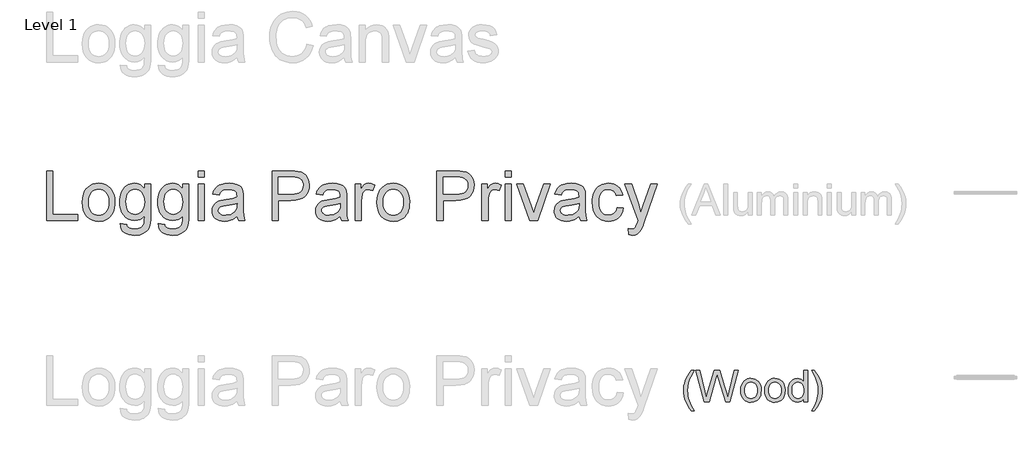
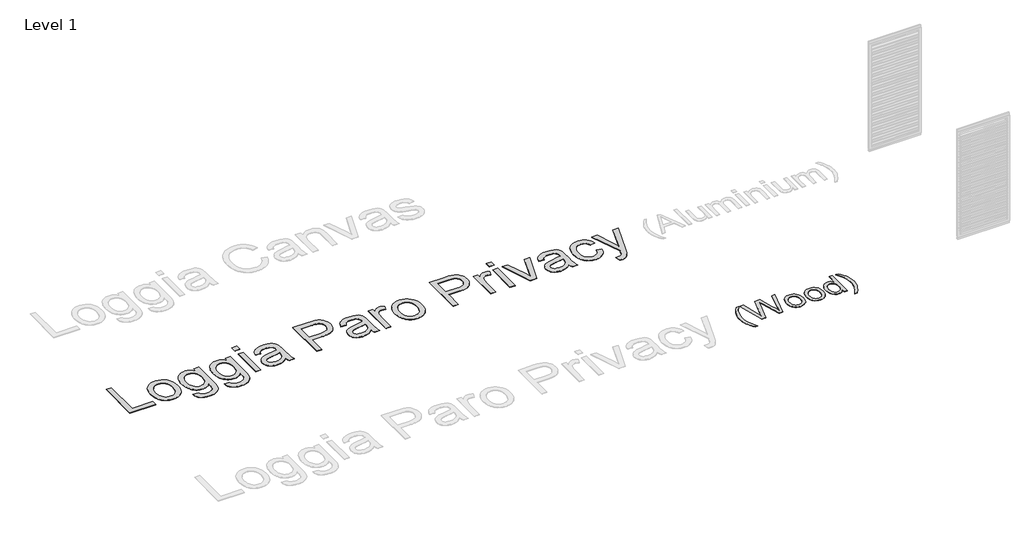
# One storey, part 29 of 69: 2 proxies.
"""IFC4 building model written with IfcOpenShell, lengths in millimetres."""

from ifc_helpers import new_model, si_unit, origin, origin_with_axes, place, context, project, spatial, polyline, outline, extrude, element, save

model = new_model("IFC4")

# Units and contexts
model_context = context("Model", 3, world=origin())
ifc_project = project(units=[si_unit("LENGTHUNIT", "METRE", prefix="MILLI")], contexts=[model_context])

# Site, building, storey
site = spatial("IfcSite", under=ifc_project)
building = spatial("IfcBuilding", under=site)
storey = spatial("IfcBuildingStorey", under=building, Name="Level 1", Elevation=0.0)

# Proxies
placement = place(None, origin())
element("IfcBuildingElementProxy", 1, Name="500mm Arial", ObjectType="500mm Arial", at=placement, inside=storey, context=model_context, shape_type="SweptSolid", body=[
    extrude(outline(polyline([(204325.7477169, -27411.3143919), (204300.4021803, -27378.5192449), (204277.0953231, -27343.041625), (204236.5976468, -27264.0389665), (204220.6637579, -27221.471954), (204209.2824086, -27178.1385206), (204202.4535991, -27134.0386664), (204200.1773292, -27089.1723915), (204201.8787835, -27049.7400401), (204206.9831462, -27011.1507516), (204215.4904173, -26973.4045261), (204227.4005969, -26936.5013635), (204245.5034567, -26894.1796056), (204267.92893, -26851.9498182), (204294.6770168, -26809.8120014), (204325.7477169, -26767.766155), (204372.8366123, -26767.766155), (204314.0981204, -26867.216921), (204294.0485517, -26914.4284437), (204278.7814489, -26963.6020038), (204266.9172545, -27026.4178544), (204262.9625231, -27089.5402734), (204264.6793057, -27129.788863), (204269.8296537, -27170.0297883), (204278.4135669, -27210.2630494), (204290.4310454, -27250.4886463), (204324.7666983, -27330.9168475), (204372.8366123, -27411.3143919), (204325.7477169, -27411.3143919)])), origin_with_axes(), (0.0, 0.0, 1.0), 5.0),
    extrude(outline(polyline([(204533.3557895, -27270.0477057), (204396.38106, -26767.766155), (204461.1282912, -26767.766155), (204540.5908021, -27097.878932), (204565.1162685, -27199.7822447), (204591.3585175, -27109.6511559), (204690.9319108, -26767.766155), (204784.2513103, -26767.766155), (204856.601436, -27015.5959924), (204887.5954941, -27107.5664912), (204910.4348346, -27199.7822447), (204934.224537, -27100.821988), (205014.4228119, -26767.766155), (205079.1700431, -26767.766155), (204942.0726862, -27270.0477057), (204874.9955357, -27270.0477057), (204754.575496, -26882.5453375), (204737.7755515, -26828.4666842), (204718.8909424, -26893.5817974), (204609.1394806, -27270.0477057), (204533.3557895, -27270.0477057)])), origin_with_axes(), (0.0, 0.0, 1.0), 5.0),
    extrude(outline(polyline([(205118.4107892, -27085.6161988), (205121.8060335, -27037.8451889), (205131.9917662, -26996.6807265), (205148.9679874, -26962.1228116), (205172.7346972, -26934.1714442), (205196.6623553, -26916.3061748), (205223.0732168, -26903.5452681), (205251.9672819, -26895.888724), (205283.3445504, -26893.3365427), (205317.9829395, -26896.4443791), (205349.3027264, -26905.7678884), (205377.3039112, -26921.3070706), (205401.9864938, -26943.0619257), (205422.1318652, -26970.2966897), (205436.5214161, -27002.2755985), (205445.1551467, -27038.9986523), (205448.0330569, -27080.4658509), (205442.9440226, -27143.8948382), (205436.5827298, -27169.9301536), (205427.6769198, -27192.1793501), (205416.3377237, -27211.3973522), (205402.6762726, -27228.3390845), (205386.6925663, -27243.004547), (205368.3866049, -27255.3937396), (205327.6590024, -27272.2703261), (205283.3445504, -27277.895855), (205248.2003235, -27274.7995149), (205216.5892967, -27265.5104945), (205188.5114698, -27250.0287938), (205163.9668429, -27228.354413), (205144.0360694, -27200.8552338), (205129.7998026, -27167.8991384), (205121.2580426, -27129.4861268), (205118.4107892, -27085.6161988)]), holes=[polyline([(205181.1959831, -27085.4935715), (205183.0124004, -27115.9473029), (205188.4616525, -27142.3160113), (205197.5437392, -27164.5996968), (205210.2586607, -27182.7983592), (205225.7250329, -27196.9349913), (205243.0614719, -27207.0325857), (205262.2679777, -27213.0911423), (205283.3445504, -27215.1106611), (205304.3138241, -27213.079646), (205323.4436879, -27206.9866004), (205340.7341416, -27196.8315245), (205356.1851854, -27182.6144182), (205368.9001069, -27164.2356469), (205377.9821936, -27141.5955758), (205383.4314457, -27114.6942049), (205385.247863, -27083.5315342), (205383.4199494, -27054.043493), (205377.9362084, -27028.3645633), (205368.7966401, -27006.4947451), (205356.0012444, -26988.4340384), (205340.4927191, -26974.2974064), (205323.2137616, -26964.199812), (205304.164372, -26958.1412554), (205283.3445504, -26956.1217365), (205262.2679777, -26958.1335912), (205243.0614719, -26964.1691552), (205225.7250329, -26974.2284285), (205210.2586607, -26988.3114111), (205197.5437392, -27006.4564241), (205188.4616525, -27028.7017885), (205183.0124004, -27055.0475043), (205181.1959831, -27085.4935715)])]), origin_with_axes(), (0.0, 0.0, 1.0), 5.0),
    extrude(outline(polyline([(205502.9701015, -27085.6161988), (205506.3653457, -27037.8451889), (205516.5510785, -26996.6807265), (205533.5272997, -26962.1228116), (205557.2940095, -26934.1714442), (205581.2216676, -26916.3061748), (205607.6325291, -26903.5452681), (205636.5265942, -26895.888724), (205667.9038627, -26893.3365427), (205702.5422518, -26896.4443791), (205733.8620387, -26905.7678884), (205761.8632235, -26921.3070706), (205786.5458061, -26943.0619257), (205806.6911775, -26970.2966897), (205821.0807284, -27002.2755985), (205829.714459, -27038.9986523), (205832.5923692, -27080.4658509), (205827.5033349, -27143.8948382), (205821.1420421, -27169.9301536), (205812.2362321, -27192.1793501), (205800.897036, -27211.3973522), (205787.2355849, -27228.3390845), (205771.2518786, -27243.004547), (205752.9459172, -27255.3937396), (205712.2183147, -27272.2703261), (205667.9038627, -27277.895855), (205632.7596358, -27274.7995149), (205601.148609, -27265.5104945), (205573.0707821, -27250.0287938), (205548.5261552, -27228.354413), (205528.5953817, -27200.8552338), (205514.3591149, -27167.8991384), (205505.8173549, -27129.4861268), (205502.9701015, -27085.6161988)]), holes=[polyline([(205565.7552953, -27085.4935715), (205567.5717127, -27115.9473029), (205573.0209647, -27142.3160113), (205582.1030515, -27164.5996968), (205594.817973, -27182.7983592), (205610.2843452, -27196.9349913), (205627.6207842, -27207.0325857), (205646.82729, -27213.0911423), (205667.9038627, -27215.1106611), (205688.8731364, -27213.079646), (205708.0030001, -27206.9866004), (205725.2934539, -27196.8315245), (205740.7444977, -27182.6144182), (205753.4594192, -27164.2356469), (205762.5415059, -27141.5955758), (205767.990758, -27114.6942049), (205769.8071753, -27083.5315342), (205767.9792617, -27054.043493), (205762.4955207, -27028.3645633), (205753.3559524, -27006.4947451), (205740.5605567, -26988.4340384), (205725.0520314, -26974.2974064), (205707.7730739, -26964.199812), (205688.7236843, -26958.1412554), (205667.9038627, -26956.1217365), (205646.82729, -26958.1335912), (205627.6207842, -26964.1691552), (205610.2843452, -26974.2284285), (205594.817973, -26988.3114111), (205582.1030515, -27006.4564241), (205573.0209647, -27028.7017885), (205567.5717127, -27055.0475043), (205565.7552953, -27085.4935715)])]), origin_with_axes(), (0.0, 0.0, 1.0), 5.0),
    extrude(outline(polyline([(206130.8220399, -27270.0477057), (206130.8220399, -27210.8187045), (206112.0370656, -27240.1649578), (206089.2820313, -27261.1265674), (206062.5569372, -27273.7035331), (206031.8617832, -27277.895855), (205991.2721364, -27271.8258021), (205954.1160549, -27253.6156433), (205922.6621443, -27224.5376373), (205899.1790103, -27185.8640425), (205884.555701, -27139.1583575), (205879.6812646, -27085.9840808), (205884.1724906, -27033.468926), (205897.6461687, -26986.0428055), (205907.7475951, -26964.9125834), (205920.0869704, -26946.4035205), (205934.6642944, -26930.5156168), (205951.4795673, -26917.2488724), (205989.4480549, -26899.3146251), (206031.6165286, -26893.3365427), (206062.3346752, -26897.6131709), (206089.4966291, -26910.4430555), (206112.5199107, -26930.1094138), (206130.8220399, -26954.8954632), (206130.8220399, -26767.766155), (206193.6072338, -26767.766155), (206193.6072338, -27270.0477057), (206130.8220399, -27270.0477057)]), holes=[polyline([(205942.4664584, -27085.7388262), (205944.2368905, -27116.1848934), (205949.5481868, -27142.5306092), (205958.4003473, -27164.7759736), (205970.793372, -27182.9209866), (205985.5929581, -27197.0039692), (206001.6648028, -27207.0632425), (206019.008906, -27213.0988065), (206037.6252678, -27215.1106611), (206056.329768, -27213.190777), (206073.5704044, -27207.4311245), (206089.3471771, -27197.8317037), (206103.660086, -27184.3925145), (206115.5434408, -27167.0062582), (206124.0315514, -27145.5656356), (206129.1244178, -27120.0706469), (206130.8220399, -27090.5212921), (206129.093761, -27058.1246839), (206123.9089241, -27030.3419291), (206115.2675293, -27007.1730276), (206103.1695766, -26988.6179794), (206088.5424352, -26974.4008732), (206072.3134743, -26964.2457973), (206054.4826938, -26958.1527517), (206035.0500939, -26956.1217365), (206016.0658501, -26958.0722775), (205998.7217468, -26963.9239005), (205983.0177842, -26973.6766055), (205968.9539621, -26987.3303925), (205957.3656792, -27005.1841655), (205949.0883343, -27027.5368288), (205944.1219274, -27054.3883824), (205942.4664584, -27085.7388262)])]), origin_with_axes(), (0.0, 0.0, 1.0), 5.0),
    extrude(outline(polyline([(206303.481323, -27411.3143919), (206256.3924276, -27411.3143919), (206304.4623417, -27330.9168475), (206338.7979945, -27250.4886463), (206350.815473, -27210.2630494), (206359.3993863, -27170.0297883), (206364.5497342, -27129.788863), (206366.2665168, -27089.5402734), (206362.3117854, -27026.8777069), (206350.4475911, -26964.7056498), (206335.4563998, -26915.4401192), (206315.4988015, -26868.1979397), (206256.3924276, -26767.766155), (206303.481323, -26767.766155), (206334.5520232, -26809.8120014), (206361.3001099, -26851.9498182), (206383.7255832, -26894.1796056), (206401.828443, -26936.5013635), (206413.7386226, -26973.4045261), (206422.2458938, -27011.1507516), (206427.3502565, -27049.7400401), (206429.0517107, -27089.1723915), (206426.7639445, -27134.0386664), (206419.9006461, -27178.1385206), (206408.4618153, -27221.471954), (206392.4474522, -27264.0389665), (206351.9037906, -27343.041625), (206303.481323, -27411.3143919)])), origin_with_axes(), (0.0, 0.0, 1.0), 5.0),
])
element("IfcBuildingElementProxy", 2, Name="800mm Arial", ObjectType="800mm Arial", at=placement, inside=storey, context=model_context, shape_type="SweptSolid", body=[
    extrude(outline(polyline([(193965.6331768, -24354.4867288), (193965.6331768, -23555.0980305), (194065.556764, -23555.0980305), (194065.556764, -24254.5631415), (194465.2511132, -24254.5631415), (194465.2511132, -24354.4867288), (193965.6331768, -24354.4867288)])), origin_with_axes(), (0.0, 0.0, 1.0), 5.0),
    extrude(outline(polyline([(194540.1938037, -24060.9611911), (194545.5973864, -23984.932905), (194552.3518647, -23950.8616697), (194561.8081343, -23919.4190394), (194573.9661953, -23890.6050142), (194588.8260477, -23864.4195942), (194606.3876913, -23840.8627793), (194626.6511263, -23819.9345694), (194664.7323567, -23791.5017225), (194706.7656431, -23771.1925461), (194752.7509853, -23759.0070403), (194802.6883836, -23754.945205), (194857.8159047, -23759.8913738), (194907.6618201, -23774.7298802), (194952.22613, -23799.4607241), (194991.5088342, -23834.0839055), (195023.5704979, -23877.428445), (195046.4716863, -23928.323363), (195060.2123993, -23986.7686594), (195064.792637, -24052.7643344), (195062.7678182, -24106.2512643), (195056.6933618, -24153.7125288), (195046.5692679, -24195.1481276), (195032.3955364, -24230.558061), (195014.349034, -24261.1438026), (194992.6066275, -24288.1068262), (194967.1683168, -24311.4471319), (194938.0341019, -24331.1647197), (194906.3383693, -24346.8326698), (194873.2155054, -24358.0240628), (194838.6655101, -24364.7388986), (194802.6883836, -24366.9771772), (194746.7558141, -24362.049305), (194696.4463859, -24347.2656883), (194651.760099, -24322.6263272), (194612.6969535, -24288.1312216), (194580.9768254, -24244.3658614), (194558.3195911, -24191.9157362), (194544.7252505, -24130.7808461), (194540.1938037, -24060.9611911)]), holes=[polyline([(194640.117391, -24060.7660279), (194643.0082467, -24109.2336028), (194651.6808139, -24151.1998018), (194666.1350926, -24186.6646248), (194686.3710828, -24215.6280719), (194710.9860485, -24238.126736), (194738.5772539, -24254.1972104), (194769.1446989, -24263.839495), (194802.6883836, -24267.0535899), (194836.0613004, -24263.8211985), (194866.5067684, -24254.1240242), (194894.0247876, -24237.962067), (194918.6153579, -24215.335327), (194938.8513481, -24186.0852339), (194953.3056267, -24150.0532177), (194961.9781939, -24107.2392783), (194964.8690497, -24057.6434158), (194961.9598974, -24010.7127515), (194953.2324405, -23969.8443458), (194938.6866791, -23935.0381988), (194918.322613, -23906.2943104), (194893.6405599, -23883.7956463), (194866.1408373, -23867.7251719), (194835.8234452, -23858.0828872), (194802.6883836, -23854.8687923), (194769.1446989, -23858.0706895), (194738.5772539, -23867.676381), (194710.9860485, -23883.6858669), (194686.3710828, -23906.0991472), (194666.1350926, -23934.9772103), (194651.6808139, -23970.3810447), (194643.0082467, -24012.3106506), (194640.117391, -24060.7660279)])]), origin_with_axes(), (0.0, 0.0, 1.0), 5.0),
    extrude(outline(polyline([(195152.2257759, -24404.4485225), (195252.1493631, -24416.9389709), (195256.3697686, -24433.7718017), (195263.1760871, -24448.1650919), (195272.5683189, -24460.1188413), (195284.5464637, -24469.6330501), (195303.9286146, -24479.3668175), (195326.5553547, -24486.3195085), (195381.5426022, -24491.8816613), (195412.7443278, -24490.3081576), (195440.1891607, -24485.5876463), (195463.877101, -24477.7201275), (195483.8081485, -24466.7056013), (195500.3970253, -24452.84901), (195514.0584533, -24436.4552965), (195524.7924324, -24417.5244606), (195532.5989626, -24396.0565024), (195538.014743, -24353.0717952), (195539.4296766, -24279.5440383), (195506.1787368, -24312.3314654), (195469.0733227, -24335.7510562), (195428.1134342, -24349.8028107), (195383.2990715, -24354.4867288), (195328.5130861, -24349.0343553), (195280.2772675, -24332.6772349), (195258.6156707, -24320.4093946), (195238.5916157, -24305.4153675), (195203.4561307, -24267.2487532), (195175.5782793, -24221.4585741), (195155.6655283, -24171.3260126), (195143.7178776, -24116.8510687), (195139.7353274, -24058.0337423), (195141.522291, -24016.8847894), (195146.8831817, -23977.3581312), (195155.8179995, -23939.4537674), (195168.3267445, -23903.1716983), (195184.2203522, -23869.7194964), (195203.3097582, -23840.3047343), (195225.5949626, -23814.9274121), (195251.0759652, -23793.5875298), (195279.3441432, -23776.6815127), (195309.9908733, -23764.6057862), (195343.0161556, -23757.3603503), (195378.4199901, -23754.945205), (195425.1493923, -23760.4097762), (195467.5608074, -23776.8034898), (195505.6542356, -23804.1263457), (195539.4296766, -23842.3783439), (195539.4296766, -23767.4356535), (195639.3532639, -23767.4356535), (195639.3532639, -24274.2746304), (195637.6455854, -24337.7819738), (195632.5225499, -24391.299398), (195623.9841575, -24434.8269031), (195612.030408, -24468.3644889), (195596.3746555, -24495.4128965), (195576.730254, -24519.4728667), (195553.0972034, -24540.5443996), (195525.4755038, -24558.627495), (195494.1457023, -24573.1427622), (195459.3883461, -24583.5108102), (195421.2034352, -24589.731639), (195379.5909696, -24591.8052486), (195330.6354865, -24588.8838986), (195286.6200733, -24580.1198486), (195247.5447301, -24565.5130987), (195213.4094567, -24545.0636487), (195185.8365479, -24518.7471034), (195166.4482982, -24486.5390672), (195155.2447075, -24448.4395402), (195152.2257759, -24404.4485225)]), holes=[polyline([(195239.6589147, -24051.2030283), (195242.324113, -24100.6098264), (195250.3197076, -24142.8565726), (195263.6456987, -24177.9432668), (195282.3020863, -24205.869909), (195304.983716, -24227.1731982), (195330.3854336, -24242.3898334), (195358.5072391, -24251.5198145), (195389.3491324, -24254.5631415), (195419.8860832, -24251.538111), (195447.8737139, -24242.4630196), (195473.3120246, -24227.3378672), (195496.2010153, -24206.1626539), (195515.1135546, -24178.51046), (195528.6225113, -24143.9543659), (195536.7278853, -24102.4943716), (195539.4296766, -24054.1304772), (195536.6486002, -24007.7853026), (195528.305371, -23967.5023867), (195514.399989, -23933.2817295), (195494.9324541, -23905.1233309), (195471.5494565, -23883.1369703), (195445.897686, -23867.432427), (195417.9771426, -23858.009701), (195387.7878264, -23854.8687923), (195358.1047148, -23857.9609102), (195330.7269693, -23867.2372637), (195305.6545897, -23882.6978529), (195282.887576, -23904.3426778), (195263.9750367, -23932.0741568), (195250.4660801, -23965.7947082), (195242.3607061, -24005.504332), (195239.6589147, -24051.2030283)])]), origin_with_axes(), (0.0, 0.0, 1.0), 5.0),
    extrude(outline(polyline([(195764.257748, -24404.4485225), (195864.1813353, -24416.9389709), (195868.4017407, -24433.7718017), (195875.2080593, -24448.1650919), (195884.600291, -24460.1188413), (195896.5784359, -24469.6330501), (195915.9605868, -24479.3668175), (195938.5873268, -24486.3195085), (195993.5745743, -24491.8816613), (196024.7763, -24490.3081576), (196052.2211329, -24485.5876463), (196075.9090731, -24477.7201275), (196095.8401207, -24466.7056013), (196112.4289975, -24452.84901), (196126.0904254, -24436.4552965), (196136.8244046, -24417.5244606), (196144.6309348, -24396.0565024), (196150.0467152, -24353.0717952), (196151.4616488, -24279.5440383), (196118.210709, -24312.3314654), (196081.1052948, -24335.7510562), (196040.1454064, -24349.8028107), (195995.3310436, -24354.4867288), (195940.5450582, -24349.0343553), (195892.3092397, -24332.6772349), (195870.6476429, -24320.4093946), (195850.6235878, -24305.4153675), (195815.4881028, -24267.2487532), (195787.6102514, -24221.4585741), (195767.6975004, -24171.3260126), (195755.7498498, -24116.8510687), (195751.7672996, -24058.0337423), (195753.5542632, -24016.8847894), (195758.9151539, -23977.3581312), (195767.8499717, -23939.4537674), (195780.3587167, -23903.1716983), (195796.2523244, -23869.7194964), (195815.3417304, -23840.3047343), (195837.6269347, -23814.9274121), (195863.1079374, -23793.5875298), (195891.3761153, -23776.6815127), (195922.0228454, -23764.6057862), (195955.0481277, -23757.3603503), (195990.4519622, -23754.945205), (196037.1813644, -23760.4097762), (196079.5927796, -23776.8034898), (196117.6862077, -23804.1263457), (196151.4616488, -23842.3783439), (196151.4616488, -23767.4356535), (196251.3852361, -23767.4356535), (196251.3852361, -24274.2746304), (196249.6775576, -24337.7819738), (196244.5545221, -24391.299398), (196236.0161296, -24434.8269031), (196224.0623802, -24468.3644889), (196208.4066277, -24495.4128965), (196188.7622262, -24519.4728667), (196165.1291756, -24540.5443996), (196137.5074759, -24558.627495), (196106.1776744, -24573.1427622), (196071.4203182, -24583.5108102), (196033.2354073, -24589.731639), (195991.6229418, -24591.8052486), (195942.6674587, -24588.8838986), (195898.6520455, -24580.1198486), (195859.5767022, -24565.5130987), (195825.4414289, -24545.0636487), (195797.8685201, -24518.7471034), (195778.4802703, -24486.5390672), (195767.2766796, -24448.4395402), (195764.257748, -24404.4485225)]), holes=[polyline([(195851.6908869, -24051.2030283), (195854.3560851, -24100.6098264), (195862.3516798, -24142.8565726), (195875.6776709, -24177.9432668), (195894.3340584, -24205.869909), (195917.0156881, -24227.1731982), (195942.4174057, -24242.3898334), (195970.5392112, -24251.5198145), (196001.3811046, -24254.5631415), (196031.9180554, -24251.538111), (196059.9056861, -24242.4630196), (196085.3439968, -24227.3378672), (196108.2329875, -24206.1626539), (196127.1455268, -24178.51046), (196140.6544835, -24143.9543659), (196148.7598575, -24102.4943716), (196151.4616488, -24054.1304772), (196148.6805724, -24007.7853026), (196140.3373432, -23967.5023867), (196126.4319611, -23933.2817295), (196106.9644263, -23905.1233309), (196083.5814287, -23883.1369703), (196057.9296581, -23867.432427), (196030.0091148, -23858.009701), (195999.8197985, -23854.8687923), (195970.136687, -23857.9609102), (195942.7589414, -23867.2372637), (195917.6865618, -23882.6978529), (195894.9195482, -23904.3426778), (195876.0070089, -23932.0741568), (195862.4980522, -23965.7947082), (195854.3926782, -24005.504332), (195851.6908869, -24051.2030283)])]), origin_with_axes(), (0.0, 0.0, 1.0), 5.0),
    extrude(outline(polyline([(196401.270617, -23655.0216178), (196401.270617, -23555.0980305), (196501.1942043, -23555.0980305), (196501.1942043, -23655.0216178), (196401.270617, -23655.0216178)])), origin_with_axes(), (0.0, 0.0, 1.0), 5.0),
    extrude(outline(polyline([(196401.270617, -24354.4867288), (196401.270617, -23767.4356535), (196501.1942043, -23767.4356535), (196501.1942043, -24354.4867288), (196401.270617, -24354.4867288)])), origin_with_axes(), (0.0, 0.0, 1.0), 5.0),
    extrude(outline(polyline([(197025.7930376, -24279.5440383), (196978.051226, -24320.4795314), (196953.6497201, -24335.6412769), (196928.8944808, -24347.2656883), (196877.2006132, -24362.049305), (196821.8474346, -24366.9771772), (196777.356311, -24364.0131353), (196738.3419563, -24355.1210094), (196704.8043704, -24340.3007996), (196676.7435535, -24319.5525059), (196654.586425, -24294.1934803), (196638.7599047, -24265.5410747), (196629.2639925, -24233.5952891), (196626.0986884, -24198.3561237), (196630.8801882, -24156.9327225), (196645.2246876, -24119.3150048), (196667.3513218, -24087.1130675), (196695.4792261, -24061.9370074), (196728.5350026, -24042.9085899), (196765.4452535, -24029.1495803), (196851.9025761, -24014.1220096), (196954.0705409, -23998.3137858), (197025.2075478, -23979.7732765), (197025.7930376, -23957.5246652), (197024.0731614, -23933.300026), (197018.9135328, -23912.9298611), (197010.3141518, -23896.4141706), (196998.2750184, -23883.7529543), (196977.4657362, -23871.1161334), (196952.1189083, -23862.0898328), (196922.2345347, -23856.6740525), (196887.8126153, -23854.8687923), (196828.2878221, -23859.6746875), (196805.2585578, -23865.6820565), (196786.7180485, -23874.0923731), (196771.4831168, -23885.5643133), (196758.3705855, -23900.756553), (196747.3804546, -23919.6690923), (196738.5127241, -23942.3019312), (196638.5891368, -23929.8114828), (196655.9342713, -23875.165771), (196667.8087356, -23852.2340884), (196681.8177981, -23832.2298546), (196698.5652451, -23814.7505454), (196718.6548628, -23799.3936367), (196742.0866513, -23786.1591284), (196768.8606105, -23775.0470205), (196830.2638501, -23759.9706589), (196900.6933902, -23754.945205), (196968.2442724, -23759.3851691), (197021.7921908, -23772.7050614), (197062.1665895, -23792.7336906), (197090.1969122, -23817.2998655), (197108.7862124, -23847.6721473), (197120.8375435, -23885.1190971), (197124.4968545, -23919.6629935), (197125.7166249, -23972.552236), (197125.7166249, -24096.8712303), (197126.9851861, -24205.1624422), (197130.7908696, -24270.4689469), (197138.3046549, -24313.3804679), (197150.6975217, -24354.4867288), (197050.7739344, -24354.4867288), (197034.7705474, -24319.7476692), (197025.7930376, -24279.5440383)]), holes=[polyline([(197025.7930376, -24079.6968637), (196958.6568774, -24096.3345314), (196864.5881878, -24110.337495), (196812.7479478, -24117.9976528), (196778.6187733, -24126.5360453), (196756.2481851, -24137.6115601), (196739.6837037, -24152.8830849), (196729.4376327, -24171.1796402), (196726.0222757, -24191.3302464), (196727.8824255, -24206.857923), (196733.4628749, -24221.0438522), (196742.7636238, -24233.888034), (196755.7846723, -24245.3904685), (196772.4040434, -24254.8680841), (196792.4997599, -24261.6378096), (196843.1202296, -24267.0535899), (196896.7901251, -24261.0767152), (196921.2831138, -24253.6056218), (196944.2147964, -24243.146091), (196982.6619579, -24216.7258652), (197009.3993241, -24185.2801855), (197021.2554919, -24152.8830849), (197025.2075478, -24107.9955359), (197025.7930376, -24079.6968637)])]), origin_with_axes(), (0.0, 0.0, 1.0), 5.0),
    extrude(outline(polyline([(197587.8632161, -24354.4867288), (197587.8632161, -23555.0980305), (197884.1210394, -23555.0980305), (197953.1112505, -23557.0008722), (198003.5609523, -23562.7093975), (198056.8161259, -23576.9319198), (198100.6546724, -23600.0831611), (198119.2622691, -23615.269302), (198135.9548264, -23633.2121238), (198163.5948226, -23677.3678106), (198174.0116614, -23702.8061213), (198181.4522606, -23729.4520047), (198187.4047399, -23786.3664893), (198183.3855966, -23835.4378506), (198171.3281666, -23880.5815514), (198151.2324501, -23921.7975916), (198123.0984469, -23959.0859713), (198105.4041532, -23975.6443538), (198084.4744187, -23989.994952), (198060.3092433, -24002.1377659), (198032.908627, -24012.0727954), (197968.4010719, -24025.3195014), (197890.9517534, -24029.7350701), (197687.7868034, -24029.7350701), (197687.7868034, -24354.4867288), (197587.8632161, -24354.4867288)]), holes=[polyline([(197687.7868034, -23929.8114828), (197896.806651, -23929.8114828), (197944.8656029, -23927.5183145), (197985.4107695, -23920.6388098), (198018.4421506, -23909.1729684), (198043.9597464, -23893.1207906), (198063.0003616, -23872.9091959), (198076.600801, -23848.9651038), (198084.7610647, -23821.2885145), (198087.4811526, -23789.8794279), (198085.8771546, -23766.5574188), (198081.0651605, -23744.991879), (198073.0451705, -23725.1828084), (198061.8171844, -23707.1302072), (198047.9788897, -23691.4195651), (198032.127974, -23678.6363718), (198014.2644372, -23668.7806273), (197994.3882793, -23661.8523317), (197955.8435361, -23656.7292962), (197894.464692, -23655.0216178), (197687.7868034, -23655.0216178), (197687.7868034, -23929.8114828)])]), origin_with_axes(), (0.0, 0.0, 1.0), 5.0),
    extrude(outline(polyline([(198687.0226763, -24279.5440383), (198639.2808647, -24320.4795314), (198614.8793588, -24335.6412769), (198590.1241195, -24347.2656883), (198538.430252, -24362.049305), (198483.0770734, -24366.9771772), (198438.5859498, -24364.0131353), (198399.571595, -24355.1210094), (198366.0340092, -24340.3007996), (198337.9731922, -24319.5525059), (198315.8160638, -24294.1934803), (198299.9895434, -24265.5410747), (198290.4936312, -24233.5952891), (198287.3283272, -24198.3561237), (198292.1098269, -24156.9327225), (198306.4543263, -24119.3150048), (198328.5809605, -24087.1130675), (198356.7088648, -24061.9370074), (198389.7646414, -24042.9085899), (198426.6748923, -24029.1495803), (198513.1322149, -24014.1220096), (198615.3001796, -23998.3137858), (198686.4371866, -23979.7732765), (198687.0226763, -23957.5246652), (198685.3028001, -23933.300026), (198680.1431715, -23912.9298611), (198671.5437906, -23896.4141706), (198659.5046572, -23883.7529543), (198638.695375, -23871.1161334), (198613.348547, -23862.0898328), (198583.4641734, -23856.6740525), (198549.042254, -23854.8687923), (198489.5174608, -23859.6746875), (198466.4881966, -23865.6820565), (198447.9476872, -23874.0923731), (198432.7127555, -23885.5643133), (198419.6002242, -23900.756553), (198408.6100933, -23919.6690923), (198399.7423629, -23942.3019312), (198299.8187756, -23929.8114828), (198317.16391, -23875.165771), (198329.0383744, -23852.2340884), (198343.0474369, -23832.2298546), (198359.7948838, -23814.7505454), (198379.8845015, -23799.3936367), (198403.31629, -23786.1591284), (198430.0902492, -23775.0470205), (198491.4934888, -23759.9706589), (198561.923029, -23754.945205), (198629.4739111, -23759.3851691), (198683.0218296, -23772.7050614), (198723.3962283, -23792.7336906), (198751.426551, -23817.2998655), (198770.0158511, -23847.6721473), (198782.0671822, -23885.1190971), (198785.7264933, -23919.6629935), (198786.9462636, -23972.552236), (198786.9462636, -24096.8712303), (198788.2148248, -24205.1624422), (198792.0205083, -24270.4689469), (198799.5342937, -24313.3804679), (198811.9271605, -24354.4867288), (198712.0035732, -24354.4867288), (198696.0001861, -24319.7476692), (198687.0226763, -24279.5440383)]), holes=[polyline([(198687.0226763, -24079.6968637), (198619.8865161, -24096.3345314), (198525.8178265, -24110.337495), (198473.9775865, -24117.9976528), (198439.8484121, -24126.5360453), (198417.4778238, -24137.6115601), (198400.9133424, -24152.8830849), (198390.6672714, -24171.1796402), (198387.2519145, -24191.3302464), (198389.1120642, -24206.857923), (198394.6925136, -24221.0438522), (198403.9932626, -24233.888034), (198417.0143111, -24245.3904685), (198433.6336821, -24254.8680841), (198453.7293987, -24261.6378096), (198504.3498683, -24267.0535899), (198558.0197638, -24261.0767152), (198582.5127525, -24253.6056218), (198605.4444351, -24243.146091), (198643.8915967, -24216.7258652), (198670.6289628, -24185.2801855), (198682.4851306, -24152.8830849), (198686.4371866, -24107.9955359), (198687.0226763, -24079.6968637)])]), origin_with_axes(), (0.0, 0.0, 1.0), 5.0),
    extrude(outline(polyline([(198924.3411962, -24354.4867288), (198924.3411962, -23767.4356535), (199011.774335, -23767.4356535), (199011.774335, -23854.2833026), (199044.073854, -23803.9311824), (199059.2721926, -23786.5128618), (199073.8362506, -23774.2663674), (199103.6962288, -23759.7754956), (199136.2884926, -23754.945205), (199161.0742262, -23756.8724422), (199186.055123, -23762.6541537), (199211.2311831, -23772.2903395), (199236.6024064, -23785.7809996), (199203.2294896, -23875.3609343), (199168.1001034, -23859.9918278), (199132.9707173, -23854.8687923), (199103.1351345, -23859.7966646), (199076.4709545, -23874.5802812), (199054.9298101, -23898.0974536), (199040.4633337, -23929.225993), (199028.314421, -23985.0426844), (199024.2647835, -24045.9336204), (199024.2647835, -24354.4867288), (198924.3411962, -24354.4867288)])), origin_with_axes(), (0.0, 0.0, 1.0), 5.0),
    extrude(outline(polyline([(199274.0737517, -24060.9611911), (199279.4773343, -23984.932905), (199286.2318127, -23950.8616697), (199295.6880823, -23919.4190394), (199307.8461433, -23890.6050142), (199322.7059956, -23864.4195942), (199340.2676393, -23840.8627793), (199360.5310743, -23819.9345694), (199398.6123047, -23791.5017225), (199440.645591, -23771.1925461), (199486.6309333, -23759.0070403), (199536.5683316, -23754.945205), (199591.6958527, -23759.8913738), (199641.5417681, -23774.7298802), (199686.106078, -23799.4607241), (199725.3887822, -23834.0839055), (199757.4504459, -23877.428445), (199780.3516343, -23928.323363), (199794.0923473, -23986.7686594), (199798.672585, -24052.7643344), (199796.6477662, -24106.2512643), (199790.5733098, -24153.7125288), (199780.4492159, -24195.1481276), (199766.2754844, -24230.558061), (199748.228982, -24261.1438026), (199726.4865755, -24288.1068262), (199701.0482648, -24311.4471319), (199671.9140499, -24331.1647197), (199640.2183173, -24346.8326698), (199607.0954534, -24358.0240628), (199572.5454581, -24364.7388986), (199536.5683316, -24366.9771772), (199480.6357621, -24362.049305), (199430.3263339, -24347.2656883), (199385.640047, -24322.6263272), (199346.5769014, -24288.1312216), (199314.8567734, -24244.3658614), (199292.1995391, -24191.9157362), (199278.6051985, -24130.7808461), (199274.0737517, -24060.9611911)]), holes=[polyline([(199373.997339, -24060.7660279), (199376.8881947, -24109.2336028), (199385.5607619, -24151.1998018), (199400.0150406, -24186.6646248), (199420.2510307, -24215.6280719), (199444.8659965, -24238.126736), (199472.4572018, -24254.1972104), (199503.0246469, -24263.839495), (199536.5683316, -24267.0535899), (199569.9412484, -24263.8211985), (199600.3867164, -24254.1240242), (199627.9047356, -24237.962067), (199652.4953059, -24215.335327), (199672.7312961, -24186.0852339), (199687.1855747, -24150.0532177), (199695.8581419, -24107.2392783), (199698.7489977, -24057.6434158), (199695.8398454, -24010.7127515), (199687.1123885, -23969.8443458), (199672.5666271, -23935.0381988), (199652.202561, -23906.2943104), (199627.5205079, -23883.7956463), (199600.0207853, -23867.7251719), (199569.7033932, -23858.0828872), (199536.5683316, -23854.8687923), (199503.0246469, -23858.0706895), (199472.4572018, -23867.676381), (199444.8659965, -23883.6858669), (199420.2510307, -23906.0991472), (199400.0150406, -23934.9772103), (199385.5607619, -23970.3810447), (199376.8881947, -24012.3106506), (199373.997339, -24060.7660279)])]), origin_with_axes(), (0.0, 0.0, 1.0), 5.0),
    extrude(outline(polyline([(200235.8382794, -24354.4867288), (200235.8382794, -23555.0980305), (200532.0961026, -23555.0980305), (200601.0863138, -23557.0008722), (200651.5360156, -23562.7093975), (200704.7911892, -23576.9319198), (200748.6297356, -23600.0831611), (200767.2373324, -23615.269302), (200783.9298897, -23633.2121238), (200811.5698858, -23677.3678106), (200821.9867247, -23702.8061213), (200829.4273238, -23729.4520047), (200835.3798031, -23786.3664893), (200831.3606598, -23835.4378506), (200819.3032299, -23880.5815514), (200799.2075133, -23921.7975916), (200771.0735101, -23959.0859713), (200753.3792165, -23975.6443538), (200732.4494819, -23989.994952), (200708.2843065, -24002.1377659), (200680.8836903, -24012.0727954), (200616.3761352, -24025.3195014), (200538.9268166, -24029.7350701), (200335.7618667, -24029.7350701), (200335.7618667, -24354.4867288), (200235.8382794, -24354.4867288)]), holes=[polyline([(200335.7618667, -23929.8114828), (200544.7817143, -23929.8114828), (200592.8406662, -23927.5183145), (200633.3858327, -23920.6388098), (200666.4172139, -23909.1729684), (200691.9348097, -23893.1207906), (200710.9754249, -23872.9091959), (200724.5758643, -23848.9651038), (200732.736128, -23821.2885145), (200735.4562158, -23789.8794279), (200733.8522178, -23766.5574188), (200729.0402238, -23744.991879), (200721.0202337, -23725.1828084), (200709.7922476, -23707.1302072), (200695.953953, -23691.4195651), (200680.1030372, -23678.6363718), (200662.2395004, -23668.7806273), (200642.3633425, -23661.8523317), (200603.8185994, -23656.7292962), (200542.4397552, -23655.0216178), (200335.7618667, -23655.0216178), (200335.7618667, -23929.8114828)])]), origin_with_axes(), (0.0, 0.0, 1.0), 5.0),
    extrude(outline(polyline([(200960.2842872, -24354.4867288), (200960.2842872, -23767.4356535), (201047.7174261, -23767.4356535), (201047.7174261, -23854.2833026), (201080.0169451, -23803.9311824), (201095.2152837, -23786.5128618), (201109.7793417, -23774.2663674), (201139.6393199, -23759.7754956), (201172.2315837, -23754.945205), (201197.0173173, -23756.8724422), (201221.9982141, -23762.6541537), (201247.1742742, -23772.2903395), (201272.5454975, -23785.7809996), (201239.1725807, -23875.3609343), (201204.0431945, -23859.9918278), (201168.9138084, -23854.8687923), (201139.0782255, -23859.7966646), (201112.4140456, -23874.5802812), (201090.8729012, -23898.0974536), (201076.4064248, -23929.225993), (201064.2575121, -23985.0426844), (201060.2078745, -24045.9336204), (201060.2078745, -24354.4867288), (200960.2842872, -24354.4867288)])), origin_with_axes(), (0.0, 0.0, 1.0), 5.0),
    extrude(outline(polyline([(201334.9977396, -24354.4867288), (201334.9977396, -23767.4356535), (201434.9213269, -23767.4356535), (201434.9213269, -24354.4867288), (201334.9977396, -24354.4867288)])), origin_with_axes(), (0.0, 0.0, 1.0), 5.0),
    extrude(outline(polyline([(201334.9977396, -23655.0216178), (201334.9977396, -23555.0980305), (201434.9213269, -23555.0980305), (201434.9213269, -23655.0216178), (201334.9977396, -23655.0216178)])), origin_with_axes(), (0.0, 0.0, 1.0), 5.0),
    extrude(outline(polyline([(201728.8371911, -24354.4867288), (201522.3544658, -23767.4356535), (201628.1329508, -23767.4356535), (201753.2325981, -24119.1198415), (201790.8991066, -24237.3887749), (201827.7849621, -24125.7553923), (201953.6652625, -23767.4356535), (202059.4437475, -23767.4356535), (201855.4981445, -24354.4867288), (201728.8371911, -24354.4867288)])), origin_with_axes(), (0.0, 0.0, 1.0), 5.0),
    extrude(outline(polyline([(202521.5903387, -24279.5440383), (202473.8485271, -24320.4795314), (202449.4470212, -24335.6412769), (202424.6917819, -24347.2656883), (202372.9979143, -24362.049305), (202317.6447357, -24366.9771772), (202273.1536121, -24364.0131353), (202234.1392574, -24355.1210094), (202200.6016715, -24340.3007996), (202172.5408546, -24319.5525059), (202150.3837261, -24294.1934803), (202134.5572058, -24265.5410747), (202125.0612936, -24233.5952891), (202121.8959895, -24198.3561237), (202126.6774893, -24156.9327225), (202141.0219887, -24119.3150048), (202163.1486229, -24087.1130675), (202191.2765272, -24061.9370074), (202224.3323037, -24042.9085899), (202261.2425546, -24029.1495803), (202347.6998772, -24014.1220096), (202449.867842, -23998.3137858), (202521.0048489, -23979.7732765), (202521.5903387, -23957.5246652), (202519.8704625, -23933.300026), (202514.7108339, -23912.9298611), (202506.1114529, -23896.4141706), (202494.0723195, -23883.7529543), (202473.2630373, -23871.1161334), (202447.9162094, -23862.0898328), (202418.0318358, -23856.6740525), (202383.6099164, -23854.8687923), (202324.0851232, -23859.6746875), (202301.0558589, -23865.6820565), (202282.5153496, -23874.0923731), (202267.2804179, -23885.5643133), (202254.1678866, -23900.756553), (202243.1777557, -23919.6690923), (202234.3100252, -23942.3019312), (202134.3864379, -23929.8114828), (202151.7315724, -23875.165771), (202163.6060367, -23852.2340884), (202177.6150992, -23832.2298546), (202194.3625462, -23814.7505454), (202214.4521639, -23799.3936367), (202237.8839524, -23786.1591284), (202264.6579116, -23775.0470205), (202326.0611512, -23759.9706589), (202396.4906913, -23754.945205), (202464.0415735, -23759.3851691), (202517.5894919, -23772.7050614), (202557.9638906, -23792.7336906), (202585.9942133, -23817.2998655), (202604.5835135, -23847.6721473), (202616.6348446, -23885.1190971), (202620.2941556, -23919.6629935), (202621.513926, -23972.552236), (202621.513926, -24096.8712303), (202622.7824872, -24205.1624422), (202626.5881707, -24270.4689469), (202634.101956, -24313.3804679), (202646.4948228, -24354.4867288), (202546.5712355, -24354.4867288), (202530.5678485, -24319.7476692), (202521.5903387, -24279.5440383)]), holes=[polyline([(202521.5903387, -24079.6968637), (202454.4541785, -24096.3345314), (202360.3854889, -24110.337495), (202308.5452489, -24117.9976528), (202274.4160744, -24126.5360453), (202252.0454862, -24137.6115601), (202235.4810048, -24152.8830849), (202225.2349338, -24171.1796402), (202221.8195768, -24191.3302464), (202223.6797266, -24206.857923), (202229.260176, -24221.0438522), (202238.5609249, -24233.888034), (202251.5819734, -24245.3904685), (202268.2013445, -24254.8680841), (202288.297061, -24261.6378096), (202338.9175307, -24267.0535899), (202392.5874262, -24261.0767152), (202417.0804149, -24253.6056218), (202440.0120975, -24243.146091), (202478.459259, -24216.7258652), (202505.1966252, -24185.2801855), (202517.052793, -24152.8830849), (202521.0048489, -24107.9955359), (202521.5903387, -24079.6968637)])]), origin_with_axes(), (0.0, 0.0, 1.0), 5.0),
    extrude(outline(polyline([(203133.6223109, -24142.1491058), (203233.5458982, -24154.6395542), (203222.6777443, -24201.7897772), (203205.6863433, -24243.5120221), (203182.5716951, -24279.806289), (203153.3337998, -24310.6725777), (203119.2046253, -24335.30584), (203081.4161398, -24352.9010273), (203039.9683432, -24363.4581397), (202994.8612355, -24366.9771772), (202938.8188867, -24362.0676015), (202888.570447, -24347.3388745), (202844.1159165, -24322.7909962), (202805.4552952, -24288.4239665), (202774.1620868, -24244.8842638), (202751.8097951, -24192.8183663), (202738.39842, -24132.226274), (202733.9279617, -24063.107987), (202735.8369023, -24017.1653366), (202741.5637241, -23974.1867282), (202751.1084271, -23934.1721618), (202764.4710113, -23897.1216374), (202781.7429595, -23863.7792148), (202803.0157545, -23834.888954), (202828.2893962, -23810.4508549), (202857.5638846, -23790.4649177), (202889.515769, -23774.9250434), (202922.8215985, -23763.8251332), (202957.4813731, -23757.1651871), (202993.4950927, -23754.945205), (203037.8276462, -23757.9946309), (203077.9275966, -23767.1429086), (203113.7949438, -23782.390038), (203145.4296879, -23803.7360192), (203172.2951299, -23830.692944), (203193.8545709, -23862.7729042), (203210.1080108, -23899.9759), (203221.0554497, -23942.3019312), (203121.1318625, -23954.7923796), (203113.331431, -23931.4520739), (203103.006075, -23911.1977872), (203090.1557943, -23894.0295195), (203074.7805891, -23879.9472708), (203057.2707856, -23868.9754365), (203038.0167106, -23861.138412), (203017.018364, -23856.4361972), (202994.2757458, -23854.8687923), (202960.323438, -23857.9548113), (202929.7011033, -23867.2128683), (202902.4087417, -23882.6429633), (202878.4463531, -23904.2450962), (202858.9361263, -23932.519373), (202845.00025, -23967.9658994), (202836.6387242, -24010.5846756), (202833.851549, -24060.3757014), (202836.5777357, -24110.9168859), (202844.7562959, -24154.029669), (202858.3872296, -24189.7140507), (202877.4705368, -24217.9700309), (202900.9572149, -24239.444088), (202927.7982616, -24254.7827002), (202957.9936766, -24263.9858675), (202991.5434602, -24267.0535899), (203018.5796701, -24265.1385505), (203043.2861185, -24259.3934321), (203065.6628057, -24249.8182348), (203085.7097314, -24236.4129587), (203102.8658014, -24219.0312311), (203116.5699213, -24197.5266798), (203126.8220911, -24171.8993047), (203133.6223109, -24142.1491058)])), origin_with_axes(), (0.0, 0.0, 1.0), 5.0),
    extrude(outline(polyline([(203320.979037, -24579.3148002), (203308.4885886, -24483.0993148), (203335.7138629, -24489.6860747), (203359.2310353, -24491.8816613), (203385.9196106, -24489.1249803), (203406.6557066, -24480.8549373), (203422.8054661, -24467.6570221), (203435.7350318, -24450.1167245), (203463.0578877, -24376.5401768), (203470.864418, -24352.339933), (203258.526795, -23767.4356535), (203363.9149535, -23767.4356535), (203476.5241524, -24093.3582917), (203515.751967, -24223.727347), (203554.9797815, -24108.5810257), (203670.7115926, -23767.4356535), (203775.319098, -23767.4356535), (203570.9831685, -24368.5384833), (203540.6352822, -24448.4578368), (203517.8987628, -24498.9075386), (203490.7222793, -24540.526103), (203459.9352756, -24569.3614741), (203442.846293, -24579.1806255), (203424.1716089, -24586.194305), (203382.0651363, -24591.8052486), (203353.1321835, -24588.6826365), (203320.979037, -24579.3148002)])), origin_with_axes(), (0.0, 0.0, 1.0), 5.0),
])

save(model, "model.ifc")
